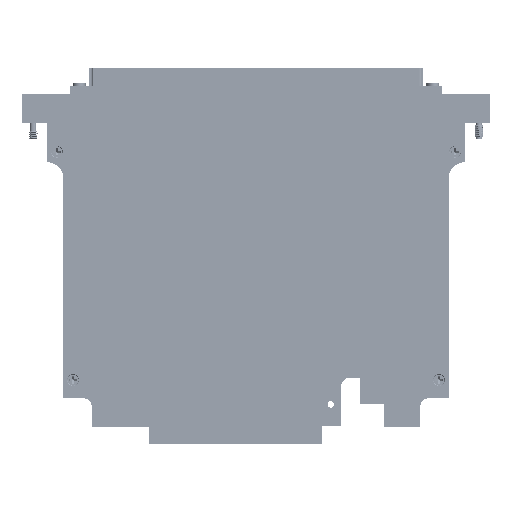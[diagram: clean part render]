
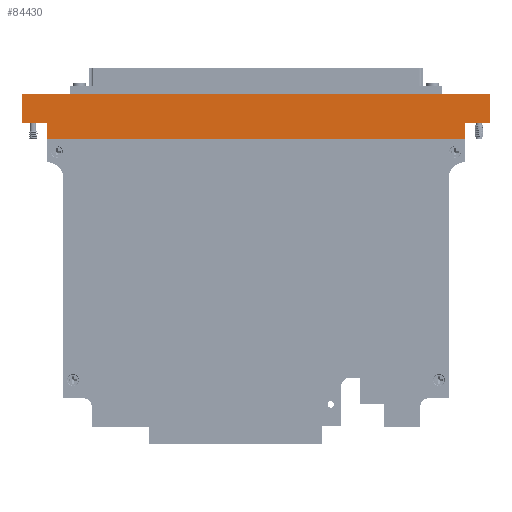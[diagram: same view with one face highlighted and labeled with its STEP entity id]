
A CAD part, left-side view. The second image highlights one B-rep face of the part: STEP entity #84430.
In plain terms, the highlighted planar face has unit normal (-1, 0, 0).
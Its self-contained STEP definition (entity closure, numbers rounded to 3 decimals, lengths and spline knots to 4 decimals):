
#3917=PLANE('',#89259);
#7362=FACE_OUTER_BOUND('',#12052,.T.);
#12052=EDGE_LOOP('',(#56965,#56966,#56967,#56968,#56969,#56970,#56971,#56972));
#19493=LINE('',#116726,#27811);
#19503=LINE('',#116785,#27821);
#19521=LINE('',#116849,#27839);
#19533=LINE('',#116880,#27851);
#19539=LINE('',#116904,#27857);
#19541=LINE('',#116907,#27859);
#19542=LINE('',#116909,#27860);
#19543=LINE('',#116911,#27861);
#27811=VECTOR('',#95625,6.44);
#27821=VECTOR('',#95697,0.245);
#27839=VECTOR('',#95761,0.44);
#27851=VECTOR('',#95789,0.44);
#27857=VECTOR('',#95819,0.245);
#27859=VECTOR('',#95823,0.3875);
#27860=VECTOR('',#95826,0.3875);
#27861=VECTOR('',#95829,7.215);
#38104=VERTEX_POINT('',#116723);
#38105=VERTEX_POINT('',#116725);
#38123=VERTEX_POINT('',#116783);
#38145=VERTEX_POINT('',#116846);
#38146=VERTEX_POINT('',#116848);
#38156=VERTEX_POINT('',#116877);
#38157=VERTEX_POINT('',#116879);
#38163=VERTEX_POINT('',#116903);
#45828=EDGE_CURVE('',#38105,#38104,#19493,.T.);
#45852=EDGE_CURVE('',#38123,#38104,#19503,.T.);
#45880=EDGE_CURVE('',#38145,#38146,#19521,.T.);
#45895=EDGE_CURVE('',#38157,#38156,#19533,.T.);
#45906=EDGE_CURVE('',#38163,#38105,#19539,.T.);
#45908=EDGE_CURVE('',#38123,#38146,#19541,.T.);
#45909=EDGE_CURVE('',#38156,#38163,#19542,.T.);
#45910=EDGE_CURVE('',#38157,#38145,#19543,.T.);
#56965=ORIENTED_EDGE('',*,*,#45852,.F.);
#56966=ORIENTED_EDGE('',*,*,#45908,.T.);
#56967=ORIENTED_EDGE('',*,*,#45880,.F.);
#56968=ORIENTED_EDGE('',*,*,#45910,.F.);
#56969=ORIENTED_EDGE('',*,*,#45895,.T.);
#56970=ORIENTED_EDGE('',*,*,#45909,.T.);
#56971=ORIENTED_EDGE('',*,*,#45906,.T.);
#56972=ORIENTED_EDGE('',*,*,#45828,.T.);
#84430=ADVANCED_FACE('',(#7362),#3917,.T.);
#89259=AXIS2_PLACEMENT_3D('',#116910,#95827,#95828);
#95625=DIRECTION('',(0.,-1.,0.));
#95697=DIRECTION('',(0.,0.,-1.));
#95761=DIRECTION('',(0.,0.,-1.));
#95789=DIRECTION('',(0.,0.,-1.));
#95819=DIRECTION('',(0.,0.,-1.));
#95823=DIRECTION('',(0.,-1.,0.));
#95826=DIRECTION('',(0.,-1.,0.));
#95827=DIRECTION('center_axis',(-1.,0.,0.));
#95828=DIRECTION('ref_axis',(0.,0.,
1.));
#95829=DIRECTION('',(0.,-1.,0.));
#116723=CARTESIAN_POINT('',(0.9499,-1.9831,-3.5837));
#116725=CARTESIAN_POINT('',(0.9499,4.4569,-3.5837));
#116726=CARTESIAN_POINT('',(0.9499,-1.9831,-3.5837));
#116783=CARTESIAN_POINT('',(0.9499,-1.9831,-3.3387));
#116785=CARTESIAN_POINT('',(0.9499,-1.9831,-2.8987));
#116846=CARTESIAN_POINT('',(0.9499,-2.3706,-2.8987));
#116848=CARTESIAN_POINT('',(0.9499,-2.3706,-3.3387));
#116849=CARTESIAN_POINT('',(0.9499,-2.3706,-2.8987));
#116877=CARTESIAN_POINT('',(0.9499,4.8444,-3.3387));
#116879=CARTESIAN_POINT('',(0.9499,4.8444,-2.8987));
#116880=CARTESIAN_POINT('',(0.9499,4.8444,-2.8987));
#116903=CARTESIAN_POINT('',(0.9499,4.4569,-3.3387));
#116904=CARTESIAN_POINT('',(0.9499,4.4569,-2.8987));
#116907=CARTESIAN_POINT('',(0.9499,4.8444,-3.3387));
#116909=CARTESIAN_POINT('',(0.9499,4.8444,-3.3387));
#116910=CARTESIAN_POINT('Origin',(0.9499,-1.9831,-2.8987));
#116911=CARTESIAN_POINT('',(0.9499,4.8444,-2.8987));
